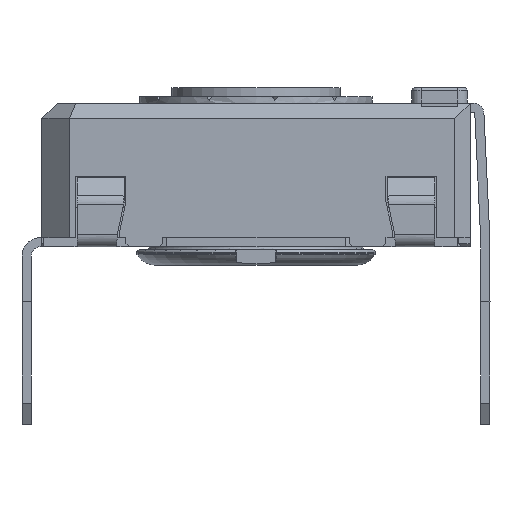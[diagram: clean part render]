
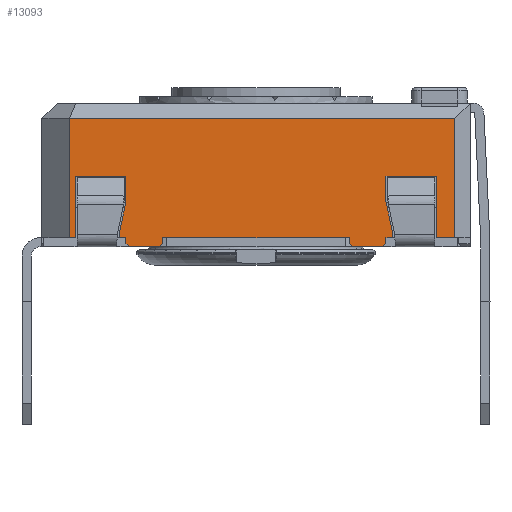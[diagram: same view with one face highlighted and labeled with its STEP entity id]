
A CAD part, left-side view. The second image highlights one B-rep face of the part: STEP entity #13093.
In plain terms, the highlighted planar face has unit normal (-1, 0, 0).
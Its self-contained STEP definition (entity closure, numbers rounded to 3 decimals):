
#1018=FACE_OUTER_BOUND('',#1702,.T.);
#1702=EDGE_LOOP('',(#10444,#10445,#10446,#10447,#10448,#10449,#10450,#10451,
#10452,#10453,#10454,#10455,#10456,#10457,#10458,#10459,#10460,#10461,#10462,
#10463,#10464,#10465,#10466,#10467,#10468,#10469,#10470,#10471));
#2710=LINE('',#20038,#4217);
#2716=LINE('',#20050,#4223);
#2719=LINE('',#20057,#4226);
#2724=LINE('',#20066,#4231);
#2744=LINE('',#20107,#4251);
#2758=LINE('',#20133,#4265);
#2762=LINE('',#20140,#4269);
#2777=LINE('',#20169,#4284);
#2780=LINE('',#20175,#4287);
#2785=LINE('',#20185,#4292);
#2788=LINE('',#20191,#4295);
#2791=LINE('',#20197,#4298);
#2809=LINE('',#20232,#4316);
#2821=LINE('',#20254,#4328);
#2824=LINE('',#20260,#4331);
#2861=LINE('',#20394,#4368);
#2869=LINE('',#20408,#4376);
#2878=LINE('',#20426,#4385);
#2883=LINE('',#20436,#4390);
#2885=LINE('',#20439,#4392);
#3010=LINE('',#20750,#4517);
#3012=LINE('',#20755,#4519);
#3015=LINE('',#20759,#4522);
#3017=LINE('',#20763,#4524);
#3020=LINE('',#20771,#4527);
#3021=LINE('',#20773,#4528);
#3022=LINE('',#20774,#4529);
#3023=LINE('',#20775,#4530);
#4217=VECTOR('',#16034,10.);
#4223=VECTOR('',#16042,10.);
#4226=VECTOR('',#16047,10.);
#4231=VECTOR('',#16054,10.);
#4251=VECTOR('',#16088,10.);
#4265=VECTOR('',#16102,10.);
#4269=VECTOR('',#16106,10.);
#4284=VECTOR('',#16133,10.);
#4287=VECTOR('',#16138,10.);
#4292=VECTOR('',#16145,10.);
#4295=VECTOR('',#16150,10.);
#4298=VECTOR('',#16155,10.);
#4316=VECTOR('',#16175,10.);
#4328=VECTOR('',#16189,10.);
#4331=VECTOR('',#16194,10.);
#4368=VECTOR('',#16275,10.);
#4376=VECTOR('',#16285,10.);
#4385=VECTOR('',#16296,10.);
#4390=VECTOR('',#16303,10.);
#4392=VECTOR('',#16307,10.);
#4517=VECTOR('',#16598,10.);
#4519=VECTOR('',#16602,10.);
#4522=VECTOR('',#16607,10.);
#4524=VECTOR('',#16613,10.);
#4527=VECTOR('',#16624,10.);
#4528=VECTOR('',#16625,10.);
#4529=VECTOR('',#16626,10.);
#4530=VECTOR('',#16627,10.);
#5627=VERTEX_POINT('',#20035);
#5628=VERTEX_POINT('',#20037);
#5632=VERTEX_POINT('',#20047);
#5634=VERTEX_POINT('',#20053);
#5636=VERTEX_POINT('',#20056);
#5639=VERTEX_POINT('',#20064);
#5664=VERTEX_POINT('',#20130);
#5665=VERTEX_POINT('',#20132);
#5667=VERTEX_POINT('',#20137);
#5668=VERTEX_POINT('',#20139);
#5675=VERTEX_POINT('',#20166);
#5677=VERTEX_POINT('',#20172);
#5681=VERTEX_POINT('',#20182);
#5683=VERTEX_POINT('',#20188);
#5686=VERTEX_POINT('',#20195);
#5702=VERTEX_POINT('',#20230);
#5711=VERTEX_POINT('',#20252);
#5713=VERTEX_POINT('',#20258);
#5740=VERTEX_POINT('',#20392);
#5745=VERTEX_POINT('',#20406);
#5752=VERTEX_POINT('',#20423);
#5756=VERTEX_POINT('',#20433);
#5830=VERTEX_POINT('',#20747);
#5831=VERTEX_POINT('',#20749);
#5832=VERTEX_POINT('',#20753);
#5833=VERTEX_POINT('',#20754);
#5834=VERTEX_POINT('',#20770);
#5835=VERTEX_POINT('',#20772);
#7152=EDGE_CURVE('',#5628,#5627,#2710,.T.);
#7158=EDGE_CURVE('',#5627,#5632,#2716,.T.);
#7161=EDGE_CURVE('',#5636,#5634,#2719,.T.);
#7166=EDGE_CURVE('',#5639,#5634,#2724,.T.);
#7186=EDGE_CURVE('',#5632,#5636,#2744,.T.);
#7200=EDGE_CURVE('',#5665,#5664,#2758,.T.);
#7204=EDGE_CURVE('',#5668,#5667,#2762,.T.);
#7220=EDGE_CURVE('',#5664,#5675,#2777,.T.);
#7223=EDGE_CURVE('',#5675,#5677,#2780,.T.);
#7228=EDGE_CURVE('',#5677,#5681,#2785,.T.);
#7231=EDGE_CURVE('',#5681,#5683,#2788,.T.);
#7234=EDGE_CURVE('',#5683,#5686,#2791,.T.);
#7252=EDGE_CURVE('',#5686,#5702,#2809,.T.);
#7264=EDGE_CURVE('',#5711,#5702,#2821,.T.);
#7267=EDGE_CURVE('',#5713,#5711,#2824,.T.);
#7316=EDGE_CURVE('',#5740,#5713,#2861,.T.);
#7324=EDGE_CURVE('',#5740,#5745,#2869,.T.);
#7333=EDGE_CURVE('',#5745,#5752,#2878,.T.);
#7338=EDGE_CURVE('',#5752,#5756,#2883,.T.);
#7340=EDGE_CURVE('',#5756,#5628,#2885,.T.);
#7481=EDGE_CURVE('',#5830,#5831,#3010,.T.);
#7483=EDGE_CURVE('',#5832,#5833,#3012,.T.);
#7486=EDGE_CURVE('',#5665,#5830,#3015,.T.);
#7488=EDGE_CURVE('',#5667,#5833,#3017,.T.);
#7491=EDGE_CURVE('',#5639,#5834,#3020,.T.);
#7492=EDGE_CURVE('',#5835,#5834,#3021,.T.);
#7493=EDGE_CURVE('',#5668,#5835,#3022,.T.);
#7494=EDGE_CURVE('',#5832,#5831,#3023,.T.);
#10444=ORIENTED_EDGE('',*,*,#7158,.T.);
#10445=ORIENTED_EDGE('',*,*,#7186,.T.);
#10446=ORIENTED_EDGE('',*,*,#7161,.T.);
#10447=ORIENTED_EDGE('',*,*,#7166,.F.);
#10448=ORIENTED_EDGE('',*,*,#7491,.T.);
#10449=ORIENTED_EDGE('',*,*,#7492,.F.);
#10450=ORIENTED_EDGE('',*,*,#7493,.F.);
#10451=ORIENTED_EDGE('',*,*,#7204,.T.);
#10452=ORIENTED_EDGE('',*,*,#7488,.T.);
#10453=ORIENTED_EDGE('',*,*,#7483,.F.);
#10454=ORIENTED_EDGE('',*,*,#7494,.T.);
#10455=ORIENTED_EDGE('',*,*,#7481,.F.);
#10456=ORIENTED_EDGE('',*,*,#7486,.F.);
#10457=ORIENTED_EDGE('',*,*,#7200,.T.);
#10458=ORIENTED_EDGE('',*,*,#7220,.T.);
#10459=ORIENTED_EDGE('',*,*,#7223,.T.);
#10460=ORIENTED_EDGE('',*,*,#7228,.T.);
#10461=ORIENTED_EDGE('',*,*,#7231,.T.);
#10462=ORIENTED_EDGE('',*,*,#7234,.T.);
#10463=ORIENTED_EDGE('',*,*,#7252,.T.);
#10464=ORIENTED_EDGE('',*,*,#7264,.F.);
#10465=ORIENTED_EDGE('',*,*,#7267,.F.);
#10466=ORIENTED_EDGE('',*,*,#7316,.F.);
#10467=ORIENTED_EDGE('',*,*,#7324,.T.);
#10468=ORIENTED_EDGE('',*,*,#7333,.T.);
#10469=ORIENTED_EDGE('',*,*,#7338,.T.);
#10470=ORIENTED_EDGE('',*,*,#7340,.T.);
#10471=ORIENTED_EDGE('',*,*,#7152,.T.);
#12268=PLANE('',#13969);
#13093=ADVANCED_FACE('',(#1018),#12268,.T.);
#13969=AXIS2_PLACEMENT_3D('',#20769,#16622,#16623);
#16034=DIRECTION('',(0.,0.208,-0.978));
#16042=DIRECTION('',(0.,0.,-1.));
#16047=DIRECTION('',(0.,0.,-1.));
#16054=DIRECTION('',(0.,0.707,0.707));
#16088=DIRECTION('',(0.,-1.,0.));
#16102=DIRECTION('',(0.,-1.,0.));
#16106=DIRECTION('',(0.,-1.,0.));
#16133=DIRECTION('',(0.,0.,1.));
#16138=DIRECTION('',(0.,0.208,0.978));
#16145=DIRECTION('',(0.,0.,1.));
#16150=DIRECTION('',(0.,-1.,0.));
#16155=DIRECTION('',(0.,0.,-1.));
#16175=DIRECTION('',(0.,-1.,0.));
#16189=DIRECTION('',(0.,0.,-1.));
#16194=DIRECTION('',(0.,-1.,0.));
#16275=DIRECTION('',(0.,0.,1.));
#16285=DIRECTION('',(0.,-1.,0.));
#16296=DIRECTION('',(0.,0.,1.));
#16303=DIRECTION('',(0.,-1.,0.));
#16307=DIRECTION('',(0.,0.,-1.));
#16598=DIRECTION('',(0.,0.707,-0.707));
#16602=DIRECTION('',(0.,0.707,0.707));
#16607=DIRECTION('',(0.,0.,-1.));
#16613=DIRECTION('',(0.,0.,-1.));
#16622=DIRECTION('center_axis',(-1.,0.,0.));
#16623=DIRECTION('ref_axis',(0.,0.,1.));
#16624=DIRECTION('',(0.,-1.,0.));
#16625=DIRECTION('',(0.,0.707,-0.707));
#16626=DIRECTION('',(0.,0.,-1.));
#16627=DIRECTION('',(0.,-1.,0.));
#20035=CARTESIAN_POINT('',(-14.467,1.552,0.235));
#20037=CARTESIAN_POINT('',(-14.467,1.352,1.176));
#20038=CARTESIAN_POINT('',(-14.467,1.228,1.757));
#20047=CARTESIAN_POINT('',(-14.467,1.552,0.));
#20050=CARTESIAN_POINT('',(-14.467,1.552,0.));
#20053=CARTESIAN_POINT('',(-14.467,1.352,-0.2));
#20056=CARTESIAN_POINT('',(-14.467,1.352,0.));
#20057=CARTESIAN_POINT('',(-14.467,1.352,0.));
#20064=CARTESIAN_POINT('',(-14.467,1.252,-0.3));
#20066=CARTESIAN_POINT('',(-14.467,-1.436,-2.988));
#20107=CARTESIAN_POINT('',(-14.467,4.102,0.));
#20130=CARTESIAN_POINT('',(-14.467,-7.348,0.));
#20132=CARTESIAN_POINT('',(-14.467,-7.148,0.));
#20133=CARTESIAN_POINT('',(-14.467,4.102,0.));
#20137=CARTESIAN_POINT('',(-14.467,-5.948,0.));
#20139=CARTESIAN_POINT('',(-14.467,0.152,0.));
#20140=CARTESIAN_POINT('',(-14.467,4.102,0.));
#20166=CARTESIAN_POINT('',(-14.467,-7.348,0.235));
#20169=CARTESIAN_POINT('',(-14.467,-7.348,0.118));
#20172=CARTESIAN_POINT('',(-14.467,-7.148,1.176));
#20175=CARTESIAN_POINT('',(-14.467,-7.453,-0.254));
#20182=CARTESIAN_POINT('',(-14.467,-7.148,2.));
#20185=CARTESIAN_POINT('',(-14.467,-7.148,0.588));
#20188=CARTESIAN_POINT('',(-14.467,-8.798,2.));
#20191=CARTESIAN_POINT('',(-14.467,-8.523,2.));
#20195=CARTESIAN_POINT('',(-14.467,-8.798,0.));
#20197=CARTESIAN_POINT('',(-14.467,-8.798,0.));
#20230=CARTESIAN_POINT('',(-14.467,-9.398,0.));
#20232=CARTESIAN_POINT('',(-14.467,-9.595,0.));
#20252=CARTESIAN_POINT('',(-14.467,-9.398,3.9));
#20254=CARTESIAN_POINT('',(-14.467,-9.398,0.));
#20258=CARTESIAN_POINT('',(-14.467,3.202,3.9));
#20260=CARTESIAN_POINT('',(-14.467,-6.398,3.9));
#20392=CARTESIAN_POINT('',(-14.467,3.202,0.));
#20394=CARTESIAN_POINT('',(-14.467,3.202,0.));
#20406=CARTESIAN_POINT('',(-14.467,3.002,0.));
#20408=CARTESIAN_POINT('',(-14.467,-2.985,0.));
#20423=CARTESIAN_POINT('',(-14.467,3.002,2.));
#20426=CARTESIAN_POINT('',(-14.467,3.002,0.));
#20433=CARTESIAN_POINT('',(-14.467,1.352,2.));
#20436=CARTESIAN_POINT('',(-14.467,-3.448,2.));
#20439=CARTESIAN_POINT('',(-14.467,1.352,1.));
#20747=CARTESIAN_POINT('',(-14.467,-7.148,-0.2));
#20749=CARTESIAN_POINT('',(-14.467,-7.048,-0.3));
#20750=CARTESIAN_POINT('',(-14.467,-7.861,0.513));
#20753=CARTESIAN_POINT('',(-14.467,-6.048,-0.3));
#20754=CARTESIAN_POINT('',(-14.467,-5.948,-0.2));
#20755=CARTESIAN_POINT('',(-14.467,-6.911,-1.163));
#20759=CARTESIAN_POINT('',(-14.467,-7.148,0.));
#20763=CARTESIAN_POINT('',(-14.467,-5.948,0.));
#20769=CARTESIAN_POINT('Origin',(-14.467,-9.898,0.));
#20770=CARTESIAN_POINT('',(-14.467,0.252,-0.3));
#20771=CARTESIAN_POINT('',(-14.467,0.152,-0.3));
#20772=CARTESIAN_POINT('',(-14.467,0.152,-0.2));
#20773=CARTESIAN_POINT('',(-14.467,-2.386,2.338));
#20774=CARTESIAN_POINT('',(-14.467,0.152,0.));
#20775=CARTESIAN_POINT('',(-14.467,-7.148,-0.3));
